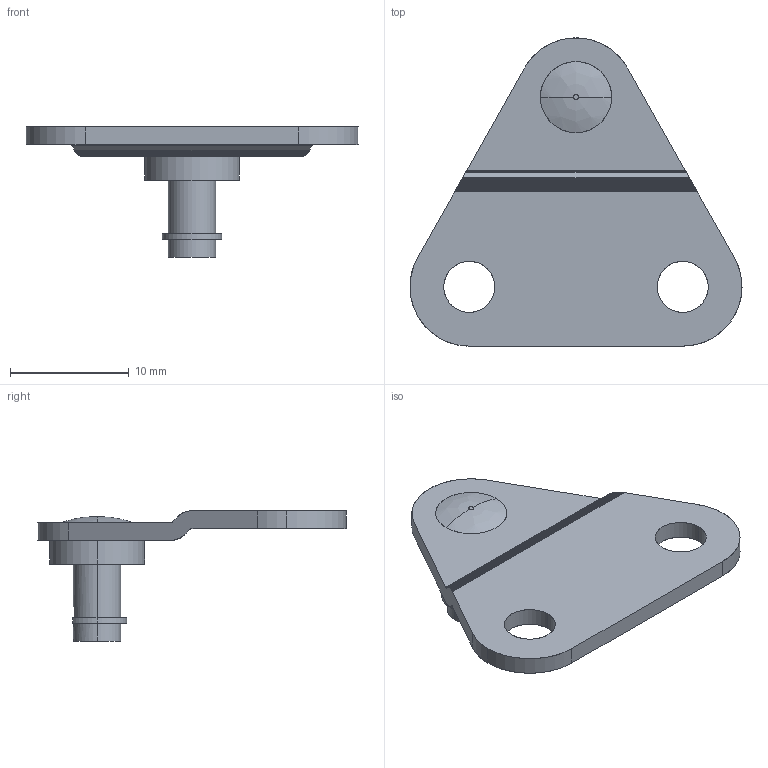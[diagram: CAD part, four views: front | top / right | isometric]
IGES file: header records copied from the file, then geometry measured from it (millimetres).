
Start section: SolidWorks IGES file using analytic representation for surfaces
Bounding box: 28 x 26 x 11 mm (x, y, z)
Surface area: 1264.8 mm2 (no closed solid volume)
Topology: 0 solids, 0 shells, 178 faces, 1482 edges, 1482 vertices
Faces by surface type: bspline 160, revolution 18
